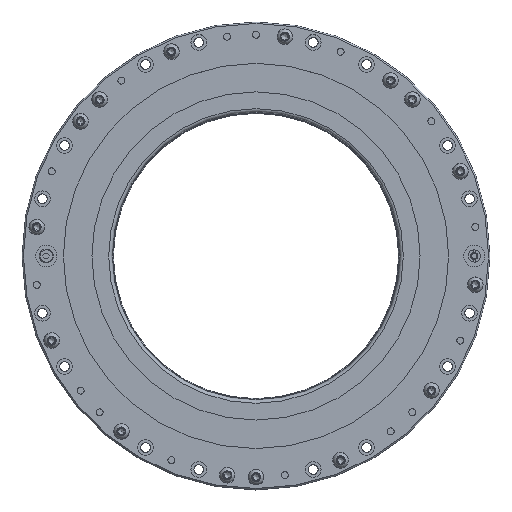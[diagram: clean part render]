
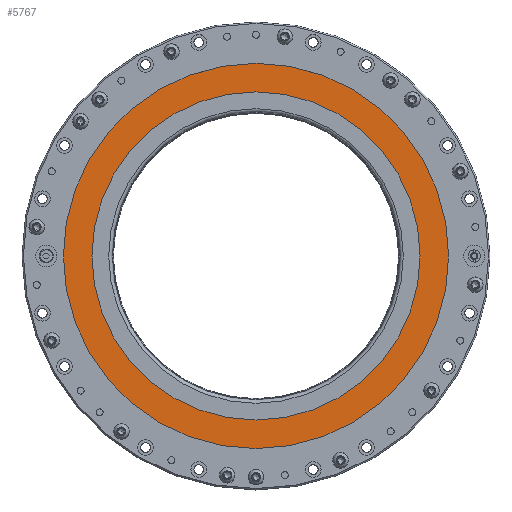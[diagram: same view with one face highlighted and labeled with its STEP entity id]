
A CAD part, top view. The second image highlights one B-rep face of the part: STEP entity #5767.
In plain terms, the highlighted planar face has unit normal (0, 0, 1) as drawn and (0, 0, -1) by its records, which use the part's own axes.
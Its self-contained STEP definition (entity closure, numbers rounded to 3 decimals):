
#765=PLANE('',#6209);
#1257=ORIENTED_EDGE('',*,*,#2057,.T.);
#1258=ORIENTED_EDGE('',*,*,#2058,.F.);
#2057=EDGE_CURVE('',#2509,#2509,#2800,.T.);
#2058=EDGE_CURVE('',#2510,#2510,#2801,.T.);
#2509=VERTEX_POINT('',#8966);
#2510=VERTEX_POINT('',#8968);
#2800=CIRCLE('',#6210,115.);
#2801=CIRCLE('',#6211,135.);
#3188=EDGE_LOOP('',(#1257));
#3189=EDGE_LOOP('',(#1258));
#3736=FACE_BOUND('',#3188,.T.);
#3737=FACE_BOUND('',#3189,.T.);
#5767=ADVANCED_FACE('',(#3736,#3737),#765,.F.);
#6209=AXIS2_PLACEMENT_3D('',#8964,#7123,#7124);
#6210=AXIS2_PLACEMENT_3D('',#8965,#7125,#7126);
#6211=AXIS2_PLACEMENT_3D('',#8967,#7127,#7128);
#7123=DIRECTION('',(0.,0.,1.));
#7124=DIRECTION('',(1.,0.,0.));
#7125=DIRECTION('',(0.,0.,1.));
#7126=DIRECTION('',(1.,0.,0.));
#7127=DIRECTION('',(0.,0.,1.));
#7128=DIRECTION('',(1.,0.,0.));
#8964=CARTESIAN_POINT('',(115.,0.,-9.5));
#8965=CARTESIAN_POINT('',(0.,0.,-9.5));
#8966=CARTESIAN_POINT('',(115.,0.,-9.5));
#8967=CARTESIAN_POINT('',(0.,0.,-9.5));
#8968=CARTESIAN_POINT('',(135.,0.,-9.5));
